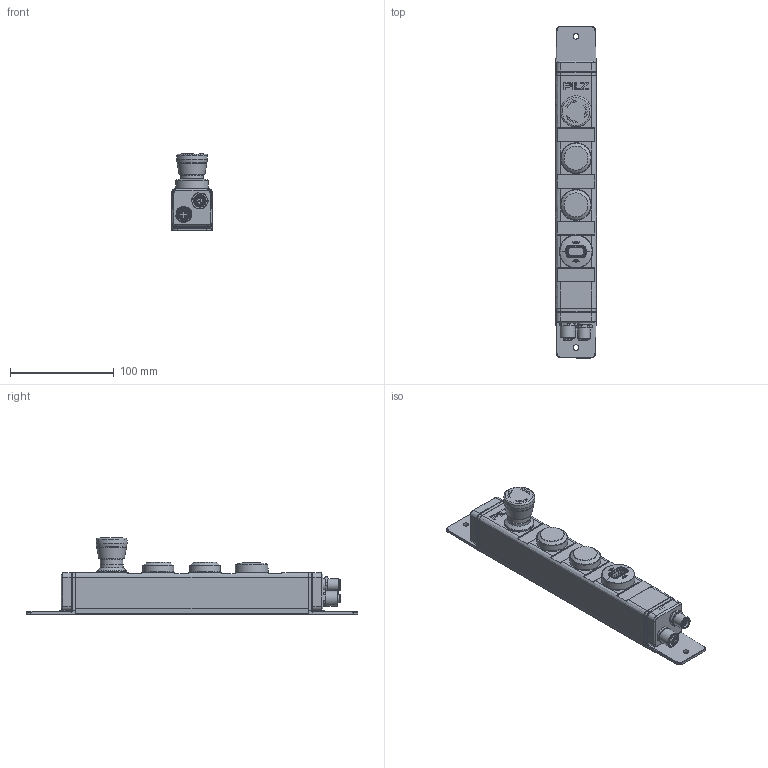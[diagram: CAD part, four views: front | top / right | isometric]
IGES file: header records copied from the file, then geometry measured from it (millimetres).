
Global section: file name: 2029622_B_PIT_gb_RLLE y down ETH; native system: Autodesk Inventor 2020; preprocessor: unknown; author: ES-PE; date: 20210420.155426; units: millimetre
Bounding box: 40 x 320 x 73.65 mm (x, y, z)
Volume: 442586.8 mm3; surface area: 69834.7 mm2
Topology: 5 solids, 10 shells, 1112 faces, 2814 edges, 1784 vertices
Faces by surface type: bspline 1112
